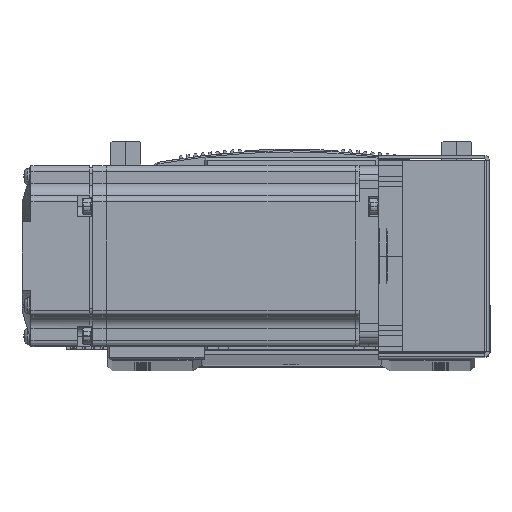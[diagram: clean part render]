
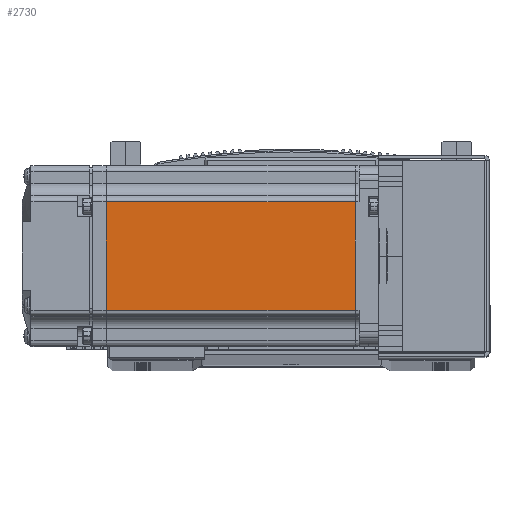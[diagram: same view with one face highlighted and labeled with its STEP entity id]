
A CAD part, top view. The second image highlights one B-rep face of the part: STEP entity #2730.
In plain terms, the highlighted planar face has unit normal (0, 0, 1) as drawn and (0, 1, 0) by its records, which use the part's own axes.
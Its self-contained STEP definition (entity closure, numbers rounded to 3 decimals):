
#2730 = ADVANCED_FACE ( 'NONE', ( #36877 ), #87505, .T. ) ;
#10256 = LINE ( 'NONE', #27338, #10257 ) ;
#10257 = VECTOR ( 'NONE', #27284, 1000. ) ;
#10330 = VECTOR ( 'NONE', #27384, 1000. ) ;
#10338 = VECTOR ( 'NONE', #26218, 1000. ) ;
#10350 = LINE ( 'NONE', #27410, #10330 ) ;
#10358 = LINE ( 'NONE', #27400, #10338 ) ;
#10415 = LINE ( 'NONE', #25279, #10456 ) ;
#10456 = VECTOR ( 'NONE', #25281, 1000. ) ;
#20330 = CARTESIAN_POINT ( 'NONE',  ( -90.45, 30., 18. ) ) ;
#20334 = CARTESIAN_POINT ( 'NONE',  ( -7.75, 30., 18. ) ) ;
#23178 = CARTESIAN_POINT ( 'NONE',  ( -7.75, 30., -18. ) ) ;
#23228 = CARTESIAN_POINT ( 'NONE',  ( -90.45, 30., -18. ) ) ;
#25279 = CARTESIAN_POINT ( 'NONE',  ( -7.75, 30., 0. ) ) ;
#25281 = DIRECTION ( 'NONE',  ( 0., 0., 1. ) ) ;
#26218 = DIRECTION ( 'NONE',  ( -1., 0., 0. ) ) ;
#27284 = DIRECTION ( 'NONE',  ( 1., 0., 0. ) ) ;
#27338 = CARTESIAN_POINT ( 'NONE',  ( -6.5, 30., 18. ) ) ;
#27384 = DIRECTION ( 'NONE',  ( 0., 0., 1. ) ) ;
#27400 = CARTESIAN_POINT ( 'NONE',  ( -6.5, 30., -18. ) ) ;
#27410 = CARTESIAN_POINT ( 'NONE',  ( -90.45, 30., 0. ) ) ;
#36877 = FACE_OUTER_BOUND ( 'NONE', #91743, .T. ) ;
#49887 = AXIS2_PLACEMENT_3D ( 'NONE', #87497, #87498, #87499 ) ;
#77615 = EDGE_CURVE ( 'NONE', #93129, #93142, #10256, .T. ) ;
#77623 = EDGE_CURVE ( 'NONE', #82933, #93129, #10350, .T. ) ;
#77653 = EDGE_CURVE ( 'NONE', #82941, #82933, #10358, .T. ) ;
#77677 = EDGE_CURVE ( 'NONE', #82941, #93142, #10415, .T. ) ;
#82933 = VERTEX_POINT ( 'NONE', #23228 ) ;
#82941 = VERTEX_POINT ( 'NONE', #23178 ) ;
#87497 = CARTESIAN_POINT ( 'NONE',  ( -6.5, 30., 25. ) ) ;
#87498 = DIRECTION ( 'NONE',  ( 0., 1., 0. ) ) ;
#87499 = DIRECTION ( 'NONE',  ( 0., 0., 1. ) ) ;
#87505 = PLANE ( 'NONE',  #49887 ) ;
#91370 = ORIENTED_EDGE ( 'NONE', *, *, #77623, .T. ) ;
#91388 = ORIENTED_EDGE ( 'NONE', *, *, #77653, .T. ) ;
#91390 = ORIENTED_EDGE ( 'NONE', *, *, #77677, .F. ) ;
#91430 = ORIENTED_EDGE ( 'NONE', *, *, #77615, .T. ) ;
#91743 = EDGE_LOOP ( 'NONE', ( #91390, #91388, #91370, #91430 ) ) ;
#93129 = VERTEX_POINT ( 'NONE', #20330 ) ;
#93142 = VERTEX_POINT ( 'NONE', #20334 ) ;
